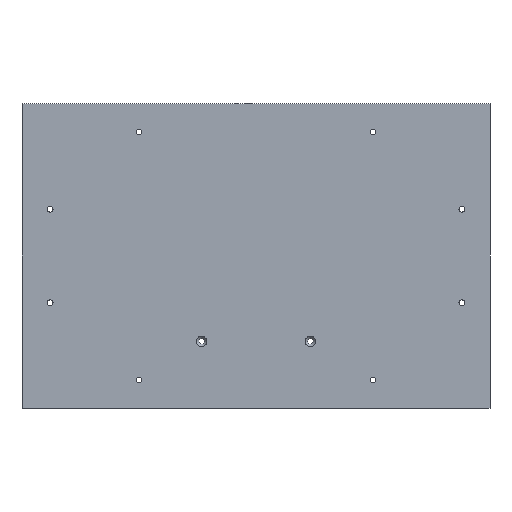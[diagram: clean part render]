
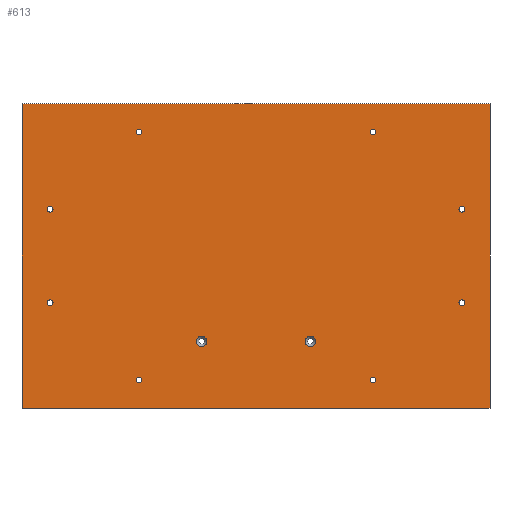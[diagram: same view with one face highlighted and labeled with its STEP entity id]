
A CAD part, front view. The second image highlights one B-rep face of the part: STEP entity #613.
In plain terms, the highlighted planar face has unit normal (0, -1, 0).
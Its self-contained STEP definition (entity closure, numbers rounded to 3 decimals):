
#1 = DIRECTION ( 'NONE',  ( 0., 0., -1. ) ) ;
#2 = EDGE_LOOP ( 'NONE', ( #526 ) ) ;
#7 = CIRCLE ( 'NONE', #347, 2.5 ) ;
#9 = CARTESIAN_POINT ( 'NONE',  ( -46.5, 0., -77.5 ) ) ;
#16 = CARTESIAN_POINT ( 'NONE',  ( -176., 0., -40. ) ) ;
#35 = CARTESIAN_POINT ( 'NONE',  ( -46.5, 0., -73. ) ) ;
#44 = DIRECTION ( 'NONE',  ( 0., -1., 0. ) ) ;
#52 = LINE ( 'NONE', #249, #375 ) ;
#58 = ORIENTED_EDGE ( 'NONE', *, *, #576, .T. ) ;
#60 = CARTESIAN_POINT ( 'NONE',  ( 100., 0., 106. ) ) ;
#61 = FACE_BOUND ( 'NONE', #2, .T. ) ;
#62 = CARTESIAN_POINT ( 'NONE',  ( -200., 0., 130. ) ) ;
#66 = DIRECTION ( 'NONE',  ( 0., 0., -1. ) ) ;
#81 = VERTEX_POINT ( 'NONE', #600 ) ;
#84 = CARTESIAN_POINT ( 'NONE',  ( -176., 0., 40. ) ) ;
#86 = CIRCLE ( 'NONE', #242, 2.5 ) ;
#89 = EDGE_LOOP ( 'NONE', ( #146 ) ) ;
#93 = CARTESIAN_POINT ( 'NONE',  ( 100., 0., -106. ) ) ;
#109 = DIRECTION ( 'NONE',  ( 0., 1., 0. ) ) ;
#113 = CARTESIAN_POINT ( 'NONE',  ( 46.5, 0., -73. ) ) ;
#118 = VERTEX_POINT ( 'NONE', #406 ) ;
#119 = EDGE_CURVE ( 'NONE', #608, #133, #488, .T. ) ;
#122 = CARTESIAN_POINT ( 'NONE',  ( 176., 0., -40. ) ) ;
#129 = CARTESIAN_POINT ( 'NONE',  ( -200., 0., -130. ) ) ;
#133 = VERTEX_POINT ( 'NONE', #62 ) ;
#137 = CIRCLE ( 'NONE', #159, 4.5 ) ;
#146 = ORIENTED_EDGE ( 'NONE', *, *, #603, .F. ) ;
#155 = FACE_BOUND ( 'NONE', #198, .T. ) ;
#159 = AXIS2_PLACEMENT_3D ( 'NONE', #113, #109, #391 ) ;
#165 = EDGE_LOOP ( 'NONE', ( #572, #606, #222, #245 ) ) ;
#169 = DIRECTION ( 'NONE',  ( 0., 0., -1. ) ) ;
#176 = DIRECTION ( 'NONE',  ( 0., -1., 0. ) ) ;
#187 = EDGE_CURVE ( 'NONE', #259, #259, #326, .T. ) ;
#189 = CARTESIAN_POINT ( 'NONE',  ( 200., 0., 130. ) ) ;
#192 = AXIS2_PLACEMENT_3D ( 'NONE', #442, #530, #169 ) ;
#196 = EDGE_LOOP ( 'NONE', ( #408 ) ) ;
#198 = EDGE_LOOP ( 'NONE', ( #371 ) ) ;
#200 = EDGE_LOOP ( 'NONE', ( #429 ) ) ;
#201 = DIRECTION ( 'NONE',  ( 1., 0., 0. ) ) ;
#202 = AXIS2_PLACEMENT_3D ( 'NONE', #228, #176, #503 ) ;
#211 = FACE_BOUND ( 'NONE', #554, .T. ) ;
#213 = EDGE_CURVE ( 'NONE', #589, #589, #349, .T. ) ;
#219 = VECTOR ( 'NONE', #390, 1000. ) ;
#222 = ORIENTED_EDGE ( 'NONE', *, *, #119, .F. ) ;
#223 = VERTEX_POINT ( 'NONE', #604 ) ;
#228 = CARTESIAN_POINT ( 'NONE',  ( -100., 0., 106. ) ) ;
#233 = EDGE_CURVE ( 'NONE', #444, #444, #483, .T. ) ;
#242 = AXIS2_PLACEMENT_3D ( 'NONE', #16, #263, #66 ) ;
#245 = ORIENTED_EDGE ( 'NONE', *, *, #313, .F. ) ;
#246 = CARTESIAN_POINT ( 'NONE',  ( 176., 0., 40. ) ) ;
#247 = ORIENTED_EDGE ( 'NONE', *, *, #448, .F. ) ;
#249 = CARTESIAN_POINT ( 'NONE',  ( -200., 0., 130. ) ) ;
#250 = VERTEX_POINT ( 'NONE', #323 ) ;
#256 = CARTESIAN_POINT ( 'NONE',  ( 100., 0., 103.5 ) ) ;
#257 = DIRECTION ( 'NONE',  ( 0., -1., 0. ) ) ;
#258 = FACE_OUTER_BOUND ( 'NONE', #165, .T. ) ;
#259 = VERTEX_POINT ( 'NONE', #256 ) ;
#263 = DIRECTION ( 'NONE',  ( 0., -1., 0. ) ) ;
#269 = DIRECTION ( 'NONE',  ( 0., 0., -1. ) ) ;
#279 = DIRECTION ( 'NONE',  ( 0., 0., -1. ) ) ;
#291 = CARTESIAN_POINT ( 'NONE',  ( 200., 0., 130. ) ) ;
#296 = PLANE ( 'NONE',  #192 ) ;
#300 = VERTEX_POINT ( 'NONE', #438 ) ;
#303 = FACE_BOUND ( 'NONE', #411, .T. ) ;
#307 = FACE_BOUND ( 'NONE', #432, .T. ) ;
#309 = AXIS2_PLACEMENT_3D ( 'NONE', #246, #44, #430 ) ;
#312 = DIRECTION ( 'NONE',  ( 0., -1., 0. ) ) ;
#313 = EDGE_CURVE ( 'NONE', #250, #608, #598, .T. ) ;
#318 = VERTEX_POINT ( 'NONE', #597 ) ;
#321 = EDGE_CURVE ( 'NONE', #436, #436, #405, .T. ) ;
#323 = CARTESIAN_POINT ( 'NONE',  ( 200., 0., -130. ) ) ;
#326 = CIRCLE ( 'NONE', #533, 2.5 ) ;
#333 = DIRECTION ( 'NONE',  ( 0., 0., -1. ) ) ;
#340 = EDGE_CURVE ( 'NONE', #300, #300, #7, .T. ) ;
#345 = FACE_BOUND ( 'NONE', #482, .T. ) ;
#347 = AXIS2_PLACEMENT_3D ( 'NONE', #122, #312, #269 ) ;
#349 = CIRCLE ( 'NONE', #202, 2.5 ) ;
#351 = CARTESIAN_POINT ( 'NONE',  ( -100., 0., -106. ) ) ;
#363 = ORIENTED_EDGE ( 'NONE', *, *, #233, .F. ) ;
#371 = ORIENTED_EDGE ( 'NONE', *, *, #321, .T. ) ;
#373 = VECTOR ( 'NONE', #460, 1000. ) ;
#375 = VECTOR ( 'NONE', #201, 1000. ) ;
#386 = VECTOR ( 'NONE', #333, 1000. ) ;
#390 = DIRECTION ( 'NONE',  ( 0., 0., 1. ) ) ;
#391 = DIRECTION ( 'NONE',  ( 0., 0., -1. ) ) ;
#392 = FACE_BOUND ( 'NONE', #89, .T. ) ;
#393 = EDGE_CURVE ( 'NONE', #81, #81, #573, .T. ) ;
#398 = DIRECTION ( 'NONE',  ( 0., -1., 0. ) ) ;
#405 = CIRCLE ( 'NONE', #609, 4.5 ) ;
#406 = CARTESIAN_POINT ( 'NONE',  ( 46.5, 0., -77.5 ) ) ;
#407 = DIRECTION ( 'NONE',  ( 0., -1., 0. ) ) ;
#408 = ORIENTED_EDGE ( 'NONE', *, *, #213, .F. ) ;
#411 = EDGE_LOOP ( 'NONE', ( #247 ) ) ;
#414 = DIRECTION ( 'NONE',  ( 0., 0., -1. ) ) ;
#420 = ORIENTED_EDGE ( 'NONE', *, *, #586, .F. ) ;
#423 = EDGE_CURVE ( 'NONE', #519, #250, #424, .T. ) ;
#424 = LINE ( 'NONE', #291, #386 ) ;
#429 = ORIENTED_EDGE ( 'NONE', *, *, #340, .F. ) ;
#430 = DIRECTION ( 'NONE',  ( 0., 0., -1. ) ) ;
#432 = EDGE_LOOP ( 'NONE', ( #363 ) ) ;
#436 = VERTEX_POINT ( 'NONE', #9 ) ;
#438 = CARTESIAN_POINT ( 'NONE',  ( 176., 0., -42.5 ) ) ;
#442 = CARTESIAN_POINT ( 'NONE',  ( 0., 0., 0. ) ) ;
#444 = VERTEX_POINT ( 'NONE', #587 ) ;
#447 = CARTESIAN_POINT ( 'NONE',  ( -200., 0., 130. ) ) ;
#448 = EDGE_CURVE ( 'NONE', #223, #223, #500, .T. ) ;
#453 = AXIS2_PLACEMENT_3D ( 'NONE', #351, #398, #580 ) ;
#460 = DIRECTION ( 'NONE',  ( -1., 0., 0. ) ) ;
#463 = CIRCLE ( 'NONE', #453, 2.5 ) ;
#481 = CARTESIAN_POINT ( 'NONE',  ( -200., 0., -130. ) ) ;
#482 = EDGE_LOOP ( 'NONE', ( #58 ) ) ;
#483 = CIRCLE ( 'NONE', #517, 2.5 ) ;
#486 = EDGE_CURVE ( 'NONE', #133, #519, #52, .T. ) ;
#487 = FACE_BOUND ( 'NONE', #200, .T. ) ;
#488 = LINE ( 'NONE', #447, #219 ) ;
#489 = CARTESIAN_POINT ( 'NONE',  ( -100., 0., 103.5 ) ) ;
#500 = CIRCLE ( 'NONE', #551, 2.5 ) ;
#503 = DIRECTION ( 'NONE',  ( 0., 0., -1. ) ) ;
#511 = DIRECTION ( 'NONE',  ( 0., 1., 0. ) ) ;
#517 = AXIS2_PLACEMENT_3D ( 'NONE', #84, #407, #414 ) ;
#519 = VERTEX_POINT ( 'NONE', #189 ) ;
#525 = DIRECTION ( 'NONE',  ( 0., -1., 0. ) ) ;
#526 = ORIENTED_EDGE ( 'NONE', *, *, #393, .F. ) ;
#527 = FACE_BOUND ( 'NONE', #563, .T. ) ;
#530 = DIRECTION ( 'NONE',  ( 0., -1., 0. ) ) ;
#533 = AXIS2_PLACEMENT_3D ( 'NONE', #60, #257, #581 ) ;
#537 = FACE_BOUND ( 'NONE', #196, .T. ) ;
#542 = CARTESIAN_POINT ( 'NONE',  ( -176., 0., -42.5 ) ) ;
#544 = VERTEX_POINT ( 'NONE', #542 ) ;
#551 = AXIS2_PLACEMENT_3D ( 'NONE', #93, #525, #1 ) ;
#554 = EDGE_LOOP ( 'NONE', ( #420 ) ) ;
#563 = EDGE_LOOP ( 'NONE', ( #615 ) ) ;
#572 = ORIENTED_EDGE ( 'NONE', *, *, #423, .F. ) ;
#573 = CIRCLE ( 'NONE', #309, 2.5 ) ;
#576 = EDGE_CURVE ( 'NONE', #118, #118, #137, .T. ) ;
#580 = DIRECTION ( 'NONE',  ( 0., 0., -1. ) ) ;
#581 = DIRECTION ( 'NONE',  ( 0., 0., -1. ) ) ;
#586 = EDGE_CURVE ( 'NONE', #318, #318, #463, .T. ) ;
#587 = CARTESIAN_POINT ( 'NONE',  ( -176., 0., 37.5 ) ) ;
#589 = VERTEX_POINT ( 'NONE', #489 ) ;
#597 = CARTESIAN_POINT ( 'NONE',  ( -100., 0., -108.5 ) ) ;
#598 = LINE ( 'NONE', #129, #373 ) ;
#600 = CARTESIAN_POINT ( 'NONE',  ( 176., 0., 37.5 ) ) ;
#603 = EDGE_CURVE ( 'NONE', #544, #544, #86, .T. ) ;
#604 = CARTESIAN_POINT ( 'NONE',  ( 100., 0., -108.5 ) ) ;
#606 = ORIENTED_EDGE ( 'NONE', *, *, #486, .F. ) ;
#608 = VERTEX_POINT ( 'NONE', #481 ) ;
#609 = AXIS2_PLACEMENT_3D ( 'NONE', #35, #511, #279 ) ;
#613 = ADVANCED_FACE ( 'NONE', ( #155, #345, #307, #392, #211, #303, #487, #61, #527, #537, #258 ), #296, .T. ) ;
#615 = ORIENTED_EDGE ( 'NONE', *, *, #187, .F. ) ;
